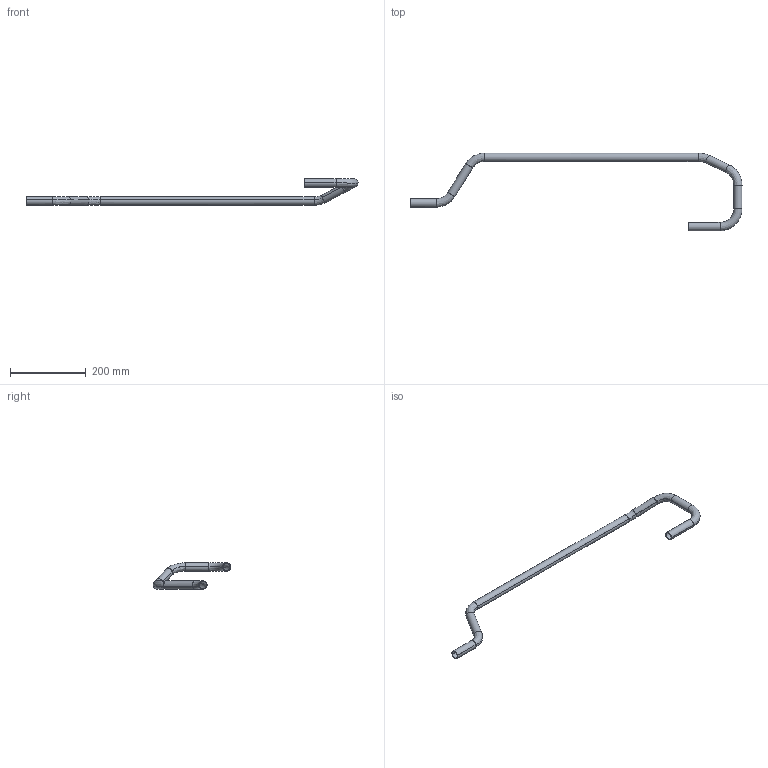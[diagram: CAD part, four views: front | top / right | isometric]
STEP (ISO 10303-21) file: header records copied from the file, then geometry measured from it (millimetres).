
FILE_DESCRIPTION(('CATIA V5 STEP Exchange','CAx-IF Rec.Pracs.--- Model Styling and Organization---1.2---2011-12-15'),'2;1');
FILE_NAME('c:\aplikace\smarteam\Temp\DO584475.step','2016-06-24T11:48:44+00:00',('none'),('none'),'CATIA Version 5 Release 21 SP 6 (IN-10)','CATIA V5 STEP AP214','none');
FILE_SCHEMA(('AUTOMOTIVE_DESIGN { 1 0 10303 214 1 1 1 1 }'));
Length unit declared in the file: millimetre
Products named in the file (1): DO584475, TRUBKA R1T4
Bounding box: 875.98 x 205 x 69.5 mm (x, y, z)
Volume: 114463.9 mm3; surface area: 152811.7 mm2
Topology: 1 solids, 1 shells, 46 faces, 92 edges, 48 vertices
Faces by surface type: cylinder 24, bspline 20, plane 2
Entity records: 1989 total; most frequent: CARTESIAN_POINT 1235, ORIENTED_EDGE 184, DIRECTION 104, EDGE_CURVE 92, AXIS2_PLACEMENT_3D 55, EDGE_LOOP 48, VERTEX_POINT 48, ADVANCED_FACE 46
